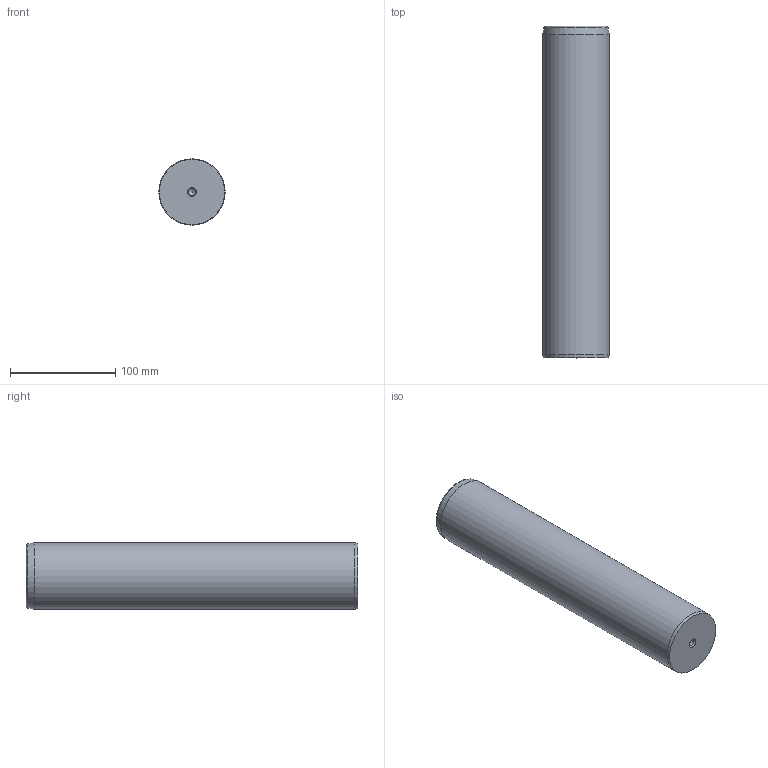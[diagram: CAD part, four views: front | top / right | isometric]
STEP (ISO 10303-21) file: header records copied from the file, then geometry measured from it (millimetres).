
FILE_DESCRIPTION( ( 'STEP AP203' ), '1' );
FILE_NAME( 'D:/Cuma/D14/D14_63315.step', '2003-01-18T22:59:43', ( ' ' ), ( ' ' ), 'XStep 1.0', ' ', ' ' );
FILE_SCHEMA( ( 'CONFIG_CONTROL_DESIGN' ) );
Length unit declared in the file: metre
Products named in the file (1): 1
Bounding box: 63 x 315 x 63 mm (x, y, z)
Volume: 978846.5 mm3; surface area: 69247.6 mm2
Topology: 1 solids, 1 shells, 14 faces, 29 edges, 17 vertices
Faces by surface type: cone 6, cylinder 5, plane 2, torus 1
Full cylindrical faces by diameter (mm): 6.75 x4, 63 x1
Entity records: 327 total; most frequent: DIRECTION 56, CARTESIAN_POINT 43, AXIS2_PLACEMENT_3D 28, EDGE_LOOP 26, ORIENTED_EDGE 26, FACE_OUTER_BOUND 20, VERTEX_POINT 15, ADVANCED_FACE 14
